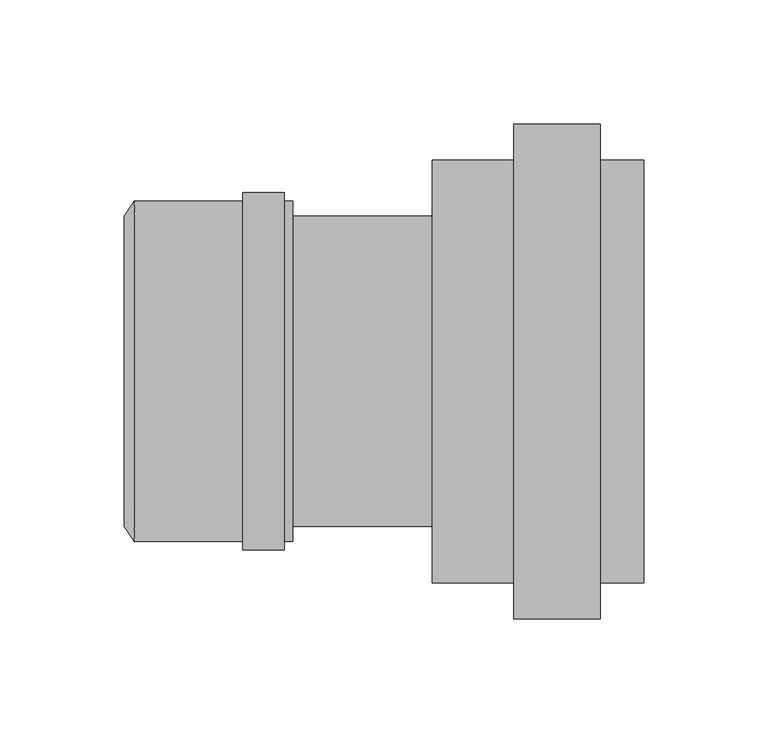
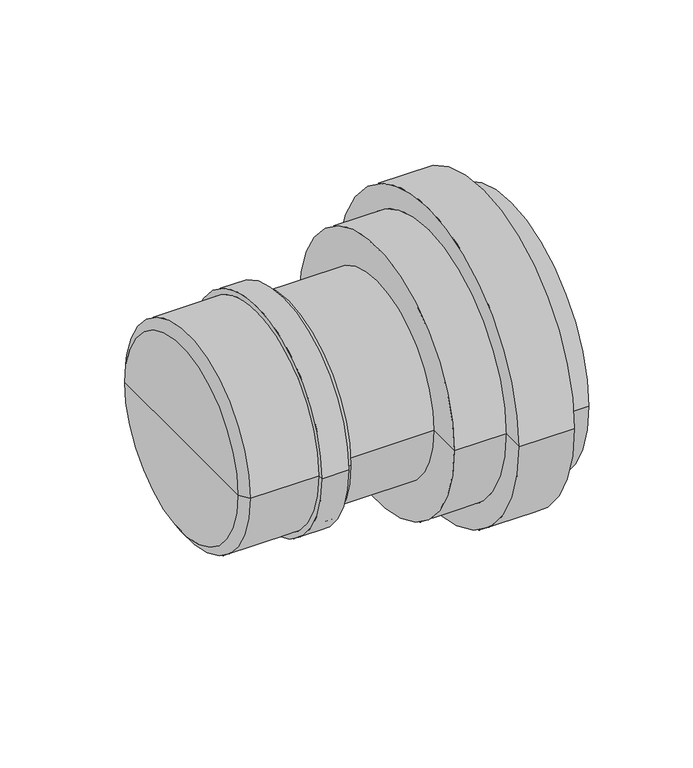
"""IFC4 building model written with IfcOpenShell, lengths in millimetres: pipe fitting geometry, pf_KGUS : pf_KGUS."""

from ifc_helpers import new_model, si_unit, point, frame, origin, origin_2d, place, context, project, spatial, polyline, circle_curve, trimmed, segment, composite_curve, outline, extrude, source, transform, mapped, element, save
from ifc_brep_helpers import plane_surface, cylinder_surface, revolved_surface, advanced_brep


def pipe_fitting_d19f67d4(model_context):
    return source(origin(), model_context, "Body", "SolidModel", [
        advanced_brep(
        [(-124.1, 62.5, 0.0), (-124.1, -62.5, 0.0), (-120.0, -68.6, 0.0), (-120.0, 68.6, 0.0), (-124.1, 0.0, 0.0), (-56.1, 68.6, 0.0), (-56.1, -68.6, 0.0), (-56.1, -62.5, 0.0), (-56.1, 62.5, 0.0), (-59.5, 68.6, 0.0), (-59.5, -68.6, 0.0), (-59.5, 72.0, 0.0), (-59.5, -72.0, 0.0), (-76.3, 72.0, 0.0), (-76.3, -72.0, 0.0), (-76.3, 68.6, 0.0), (-76.3, -68.6, 0.0), (-120.0, 62.5, 0.0), (-120.0, -62.5, 0.0), (-120.0, 0.0, 0.0)],
        [
            (0, 1, circle_curve(frame((-124.1, 0.0, 0.0), z_axis=(1.0, 0.0, 0.0), x_axis=(0.0, -1.0, 0.0)), 62.5)),
            (1, 2),
            (2, 3, circle_curve(frame((-120.0, 0.0, 0.0), z_axis=(-1.0, 0.0, 0.0), x_axis=(0.0, -1.0, 0.0)), 68.6)),
            (3, 0),
            (1, 0, circle_curve(frame((-124.1, 0.0, 0.0), z_axis=(1.0, 0.0, 0.0), x_axis=(0.0, -1.0, 0.0)), 62.5)),
            (3, 2, circle_curve(frame((-120.0, 0.0, 0.0), z_axis=(-1.0, 0.0, 0.0), x_axis=(0.0, -1.0, 0.0)), 68.6)),
            (4, 1),
            (0, 4),
            (5, 6, circle_curve(frame((-56.1, 0.0, 0.0), z_axis=(1.0, 0.0, 0.0), x_axis=(0.0, -1.0, 0.0)), 68.6)),
            (6, 7),
            (7, 8, circle_curve(frame((-56.1, 0.0, 0.0), z_axis=(-1.0, 0.0, 0.0), x_axis=(0.0, -1.0, 0.0)), 62.5)),
            (8, 5),
            (6, 5, circle_curve(frame((-56.1, 0.0, 0.0), z_axis=(1.0, 0.0, 0.0), x_axis=(0.0, -1.0, 0.0)), 68.6)),
            (8, 7, circle_curve(frame((-56.1, 0.0, 0.0), z_axis=(-1.0, 0.0, 0.0), x_axis=(0.0, -1.0, 0.0)), 62.5)),
            (9, 10, circle_curve(frame((-59.5, 0.0, 0.0), z_axis=(1.0, 0.0, 0.0), x_axis=(0.0, -1.0, 0.0)), 68.6)),
            (10, 6),
            (5, 9),
            (10, 9, circle_curve(frame((-59.5, 0.0, 0.0), z_axis=(1.0, 0.0, 0.0), x_axis=(0.0, -1.0, 0.0)), 68.6)),
            (11, 12, circle_curve(frame((-59.5, 0.0, 0.0), z_axis=(1.0, 0.0, 0.0), x_axis=(0.0, -1.0, 0.0)), 72.0)),
            (12, 10),
            (9, 11),
            (12, 11, circle_curve(frame((-59.5, 0.0, 0.0), z_axis=(1.0, 0.0, 0.0), x_axis=(0.0, -1.0, 0.0)), 72.0)),
            (13, 14, circle_curve(frame((-76.3, 0.0, 0.0), z_axis=(1.0, 0.0, 0.0), x_axis=(0.0, -1.0, 0.0)), 72.0)),
            (14, 12),
            (11, 13),
            (14, 13, circle_curve(frame((-76.3, 0.0, 0.0), z_axis=(1.0, 0.0, 0.0), x_axis=(0.0, -1.0, 0.0)), 72.0)),
            (15, 16, circle_curve(frame((-76.3, 0.0, 0.0), z_axis=(1.0, 0.0, 0.0), x_axis=(0.0, -1.0, 0.0)), 68.6)),
            (16, 14),
            (13, 15),
            (16, 15, circle_curve(frame((-76.3, 0.0, 0.0), z_axis=(1.0, 0.0, 0.0), x_axis=(0.0, -1.0, 0.0)), 68.6)),
            (2, 16),
            (15, 3),
            (17, 18, circle_curve(frame((-120.0, 0.0, 0.0), z_axis=(1.0, 0.0, 0.0), x_axis=(0.0, -1.0, 0.0)), 62.5)),
            (18, 19),
            (19, 17),
            (18, 17, circle_curve(frame((-120.0, 0.0, 0.0), z_axis=(1.0, 0.0, 0.0), x_axis=(0.0, -1.0, 0.0)), 62.5)),
            (7, 18),
            (17, 8),
        ],
        [
            revolved_surface(polyline([(-120.0, -68.6, 0.0), (-124.1, -62.5, 0.0)]), (-124.1, 0.0, 0.0), (-1.0, 0.0, 0.0)),
            plane_surface(frame((-124.1, 0.0, 0.0), z_axis=(-1.0, 0.0, 0.0), x_axis=(0.0, -1.0, 0.0))),
            plane_surface(frame((-56.1, 0.0, 0.0), z_axis=(1.0, 0.0, 0.0), x_axis=(0.0, -1.0, 0.0))),
            cylinder_surface(frame((-124.1, 0.0, 0.0), z_axis=(-1.0, 0.0, 0.0), x_axis=(0.0, -1.0, 0.0)), 68.6),
            plane_surface(frame((-59.5, 0.0, 0.0), z_axis=(1.0, 0.0, 0.0), x_axis=(0.0, -1.0, 0.0))),
            cylinder_surface(frame((-124.1, 0.0, 0.0), z_axis=(-1.0, 0.0, 0.0), x_axis=(0.0, -1.0, 0.0)), 72.0),
            plane_surface(frame((-76.3, 0.0, 0.0), z_axis=(-1.0, 0.0, 0.0), x_axis=(0.0, -1.0, 0.0))),
            plane_surface(frame((-120.0, 0.0, 0.0), z_axis=(1.0, 0.0, 0.0), x_axis=(0.0, -1.0, 0.0))),
            revolved_surface(polyline([(-120.0, -62.5, 0.0), (-56.099999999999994, -62.5, 0.0)]), (-124.1, 0.0, 0.0), (-1.0, 0.0, 0.0)),
        ],
        [
            (0, [[1, 2, 3, 4]]),
            (0, [[5, -4, 6, -2]]),
            (1, [[7, -1, 8]]),
            (1, [[-8, -5, -7]]),
            (2, [[9, 10, 11, 12]]),
            (2, [[13, -12, 14, -10]]),
            (3, [[15, 16, -9, 17]]),
            (3, [[18, -17, -13, -16]]),
            (4, [[19, 20, -15, 21]]),
            (4, [[22, -21, -18, -20]]),
            (5, [[23, 24, -19, 25]]),
            (5, [[26, -25, -22, -24]]),
            (6, [[27, 28, -23, 29]]),
            (6, [[30, -29, -26, -28]]),
            (3, [[-3, 31, -27, 32]]),
            (3, [[-6, -32, -30, -31]]),
            (7, [[33, 34, 35]]),
            (7, [[36, -35, -34]]),
            (8, [[-11, 37, -33, 38]]),
            (8, [[-14, -38, -36, -37]]),
        ],
    ),
        extrude(outline(composite_curve([segment(trimmed(circle_curve(origin_2d(), 62.5), [point((-62.5, 0.0))], [point((62.5, 0.0))], False, "CARTESIAN"), True, "CONTINUOUS"), segment(trimmed(circle_curve(origin_2d(), 62.5), [point((62.5, 0.0))], [point((-62.5, 0.0))], False, "CARTESIAN"), True, "CONTINUOUS")], self_intersect=False)), frame((-56.1, 0.0, 0.0), z_axis=(1.0, 0.0, 0.0), x_axis=(0.0, 1.0, 0.0)), (0.0, 0.0, 1.0), 56.1),
        advanced_brep(
        [(85.3, -81.2, 0.0), (85.3, 81.2, 0.0), (30.0, 81.2, 0.0), (30.0, -81.2, 0.0), (67.8, -85.2, 0.0), (67.8, 85.2, 0.0), (85.3, 85.2, 0.0), (85.3, -85.2, 0.0), (0.0, 0.0, 0.0), (0.0, 85.2, 0.0), (0.0, -85.2, 0.0), (30.0, 0.0, 0.0), (32.8, -99.7, 0.0), (32.8, 99.7, 0.0), (67.8, 99.7, 0.0), (67.8, -99.7, 0.0), (32.8, 85.2, 0.0), (32.8, -85.2, 0.0)],
        [
            (0, 1, circle_curve(frame((85.3, 0.0, 0.0), z_axis=(1.0, 0.0, 0.0), x_axis=(0.0, 1.0, 0.0)), 81.2)),
            (1, 2),
            (2, 3, circle_curve(frame((30.0, 0.0, 0.0), z_axis=(-1.0, 0.0, 0.0), x_axis=(0.0, 1.0, 0.0)), 81.2)),
            (3, 0),
            (4, 5, circle_curve(frame((67.8, 0.0, 0.0), z_axis=(1.0, 0.0, 0.0), x_axis=(0.0, 1.0, 0.0)), 85.2)),
            (5, 6),
            (6, 7, circle_curve(frame((85.3, 0.0, 0.0), z_axis=(-1.0, 0.0, 0.0), x_axis=(0.0, 1.0, 0.0)), 85.2)),
            (7, 4),
            (8, 9),
            (9, 10, circle_curve(frame((0.0, 0.0, 0.0), z_axis=(-1.0, 0.0, 0.0), x_axis=(0.0, 1.0, 0.0)), 85.2)),
            (10, 8),
            (1, 0, circle_curve(frame((85.3, 0.0, 0.0), z_axis=(1.0, 0.0, 0.0), x_axis=(0.0, 1.0, 0.0)), 81.2)),
            (3, 2, circle_curve(frame((30.0, 0.0, 0.0), z_axis=(-1.0, 0.0, 0.0), x_axis=(0.0, 1.0, 0.0)), 81.2)),
            (5, 4, circle_curve(frame((67.8, 0.0, 0.0), z_axis=(1.0, 0.0, 0.0), x_axis=(0.0, 1.0, 0.0)), 85.2)),
            (7, 6, circle_curve(frame((85.3, 0.0, 0.0), z_axis=(-1.0, 0.0, 0.0), x_axis=(0.0, 1.0, 0.0)), 85.2)),
            (10, 9, circle_curve(frame((0.0, 0.0, 0.0), z_axis=(-1.0, 0.0, 0.0), x_axis=(0.0, 1.0, 0.0)), 85.2)),
            (2, 11),
            (11, 3),
            (6, 1),
            (0, 7),
            (12, 13, circle_curve(frame((32.8, 0.0, 0.0), z_axis=(1.0, 0.0, 0.0), x_axis=(0.0, 1.0, 0.0)), 99.7)),
            (13, 14),
            (14, 15, circle_curve(frame((67.8, 0.0, 0.0), z_axis=(-1.0, 0.0, 0.0), x_axis=(0.0, 1.0, 0.0)), 99.7)),
            (15, 12),
            (13, 12, circle_curve(frame((32.8, 0.0, 0.0), z_axis=(1.0, 0.0, 0.0), x_axis=(0.0, 1.0, 0.0)), 99.7)),
            (15, 14, circle_curve(frame((67.8, 0.0, 0.0), z_axis=(-1.0, 0.0, 0.0), x_axis=(0.0, 1.0, 0.0)), 99.7)),
            (9, 16),
            (16, 17, circle_curve(frame((32.8, 0.0, 0.0), z_axis=(-1.0, 0.0, 0.0), x_axis=(0.0, 1.0, 0.0)), 85.2)),
            (17, 10),
            (17, 16, circle_curve(frame((32.8, 0.0, 0.0), z_axis=(-1.0, 0.0, 0.0), x_axis=(0.0, 1.0, 0.0)), 85.2)),
            (14, 5),
            (4, 15),
            (16, 13),
            (12, 17),
        ],
        [
            revolved_surface(polyline([(30.0, 81.2, 0.0), (85.3, 81.2, 0.0)]), (88.3, 0.0, 0.0), (-1.0, 0.0, 0.0)),
            cylinder_surface(frame((88.3, 0.0, 0.0), z_axis=(-1.0, 0.0, 0.0), x_axis=(0.0, 1.0, 0.0)), 85.2),
            plane_surface(frame((0.0, 0.0, 0.0), z_axis=(-1.0, 0.0, 0.0), x_axis=(0.0, 1.0, 0.0))),
            plane_surface(frame((30.0, 0.0, 0.0), z_axis=(1.0, 0.0, 0.0), x_axis=(0.0, 1.0, 0.0))),
            plane_surface(frame((85.3, 0.0, 0.0), z_axis=(1.0, 0.0, 0.0), x_axis=(0.0, 1.0, 0.0))),
            cylinder_surface(frame((88.3, 0.0, 0.0), z_axis=(-1.0, 0.0, 0.0), x_axis=(0.0, 1.0, 0.0)), 99.7),
            plane_surface(frame((67.8, 0.0, 0.0), z_axis=(1.0, 0.0, 0.0), x_axis=(0.0, 1.0, 0.0))),
            plane_surface(frame((32.8, 0.0, 0.0), z_axis=(-1.0, 0.0, 0.0), x_axis=(0.0, 1.0, 0.0))),
        ],
        [
            (0, [[1, 2, 3, 4]]),
            (1, [[5, 6, 7, 8]]),
            (2, [[9, 10, 11]]),
            (0, [[12, -4, 13, -2]]),
            (1, [[14, -8, 15, -6]]),
            (2, [[-11, 16, -9]]),
            (3, [[-3, 17, 18]]),
            (3, [[-13, -18, -17]]),
            (4, [[-7, 19, -1, 20]]),
            (4, [[-15, -20, -12, -19]]),
            (5, [[21, 22, 23, 24]]),
            (5, [[25, -24, 26, -22]]),
            (1, [[-10, 27, 28, 29]]),
            (1, [[-16, -29, 30, -27]]),
            (6, [[-23, 31, -5, 32]]),
            (6, [[-26, -32, -14, -31]]),
            (7, [[-28, 33, -21, 34]]),
            (7, [[-30, -34, -25, -33]]),
        ],
    ),
    ])


if __name__ == "__main__":
    model = new_model("IFC4")
    model_context = context("Model", 3, world=origin())
    ifc_project = project(units=[si_unit("LENGTHUNIT", "METRE", prefix="MILLI")], contexts=[model_context])
    site = spatial("IfcSite", under=ifc_project)
    building = spatial("IfcBuilding", under=site)
    placement = place(None, origin())
    pipe_fitting_shape = pipe_fitting_d19f67d4(model_context)
    element("IfcPipeFitting", 1, ObjectType="pf_KGUS : pf_KGUS", at=placement, inside=building, context=model_context, shape_type="MappedRepresentation", body=[
        mapped(pipe_fitting_shape, transform((0.0, 0.0, 0.0), x_axis=(1.0, 0.0, 0.0), y_axis=(0.0, 1.0, 0.0), z_axis=(0.0, 0.0, 1.0))),
    ])
    save(model, "model.ifc")
